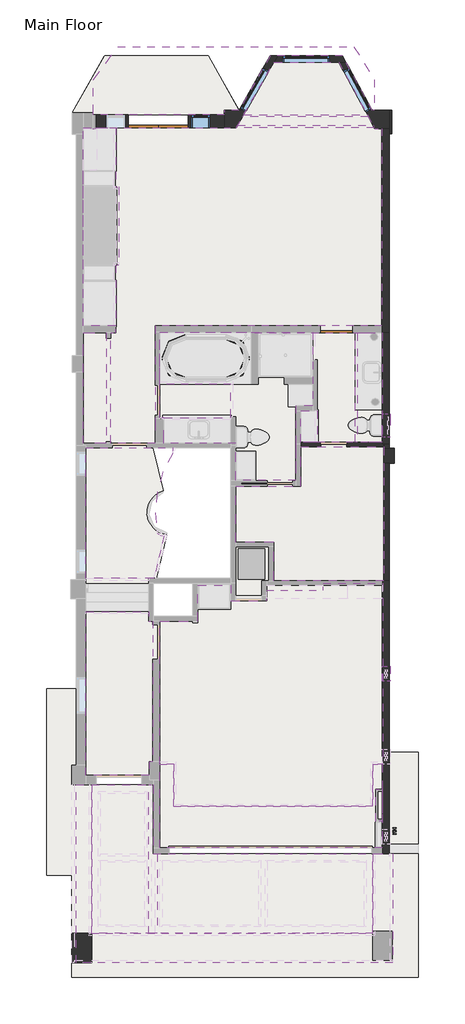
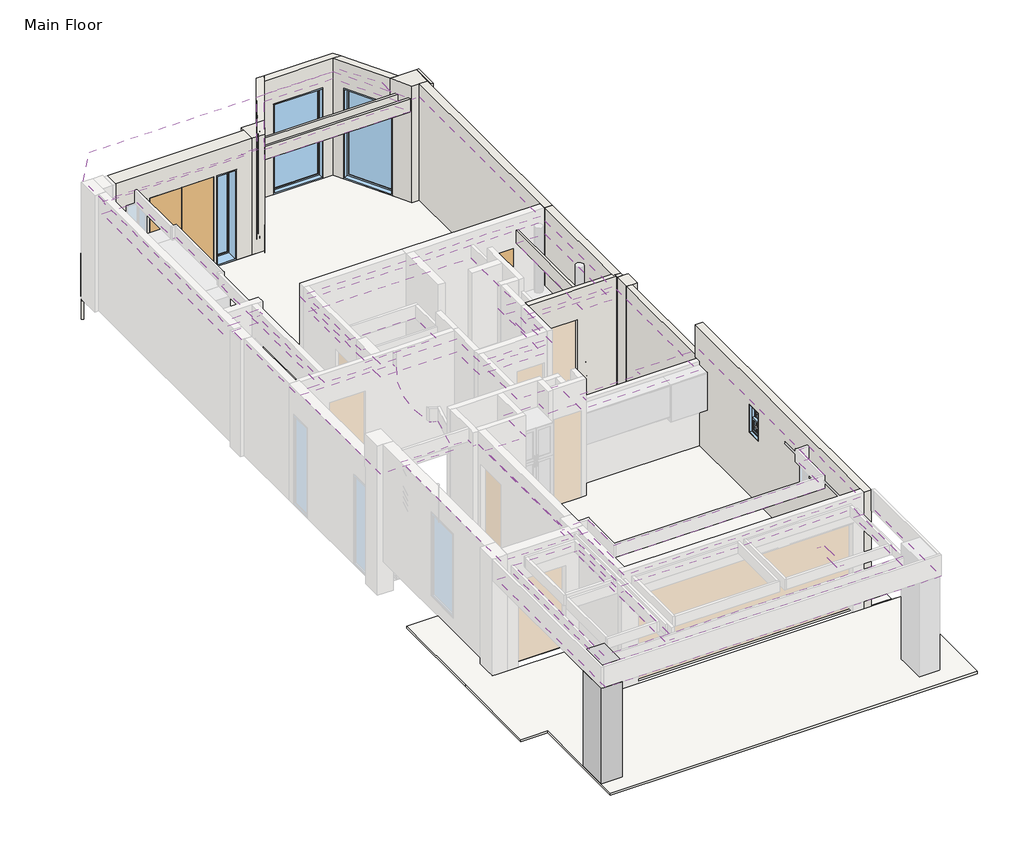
# One storey, part 3 of 4: 20 walls, 18 coverings, 6 windows, 5 slabs, 2 doors, 1 column.
"""IFC4 building model written with IfcOpenShell, lengths in millimetres."""

from ifc_helpers import new_model, si_unit, point, frame, frame_2d, origin, origin_with_axes, place, context, project, spatial, polyline, circle_curve, trimmed, segment, composite_curve, outline, extrude, faceted_brep, transform, mapped, element, save
from components import door_cfc43ca0, door_3fdbb91f, default_1_ecde31a0, default_1_4f75ed1f, default_1_15d17b29, default_1_749996dc

model = new_model("IFC4")

# Units and contexts
model_context = context("Model", 3, world=origin())
ifc_project = project(units=[si_unit("LENGTHUNIT", "METRE", prefix="MILLI")], contexts=[model_context])

# Site, building, storey
site = spatial("IfcSite", under=ifc_project)
building = spatial("IfcBuilding", under=site)
storey = spatial("IfcBuildingStorey", under=building, Name="Main Floor", Elevation=0.0)

# Column
placement = place(None, origin())
element("IfcColumn", 1, ObjectType="Rectangular Column 3D : Default 1", at=placement, inside=storey, context=model_context, shape_type="Brep", body=[
    faceted_brep([(-5752.007422, -4740.4040809, 3492.5), (-6165.85, -4740.4040809, 3492.5), (-6165.85, -5378.45, 3492.5), (-5752.007422, -5378.45, 3492.5), (-5752.007422, -4740.4040809, 762.0), (-5752.007422, -5429.25, 762.0), (-6216.65, -5429.25, 762.0), (-6216.65, -4740.4040809, 762.0), (-6216.65, -4740.4040809, 3009.9), (-6165.85, -4740.4040809, 3009.9), (-5752.007422, -4740.4040809, 3213.1), (-5802.807422, -4740.4040809, 3213.1), (-5802.807422, -4740.4040809, 3009.9), (-5752.007422, -4740.4040809, 3009.9), (-6216.65, -5429.25, 3009.9), (-5752.007422, -5429.25, 3009.9), (-6165.85, -5429.25, 3009.9), (-5752.007422, -4791.2040809, 3009.9), (-5752.007422, -4791.2040809, 3213.1), (-5752.007422, -5378.45, 3009.9), (-5802.807422, -4791.2040809, 3009.9), (-5802.807422, -4791.2040809, 3213.1), (-6165.85, -5378.45, 3009.9)], [[[0, 1, 2, 3]], [[4, 5, 6, 7]], [[4, 7, 8, 9, 1, 0, 10, 11, 12, 13]], [[7, 6, 14, 8]], [[6, 5, 15, 16, 14]], [[5, 4, 13, 17, 18, 10, 0, 3, 19, 15]], [[20, 21, 18, 17]], [[21, 11, 10, 18]], [[12, 20, 17, 13]], [[21, 20, 12, 11]], [[1, 9, 22, 2]], [[9, 8, 14, 16, 22]], [[22, 19, 3, 2]], [[19, 22, 16, 15]]]),
])

# Coverings
element("IfcCovering", 2, ObjectType="1/2\" Ceiling", at=placement, inside=storey, context=model_context, shape_type="SweptSolid", body=[
    extrude(outline(polyline([(952.5, -2096.7007105), (952.5, -1334.7007105), (1104.9, -1334.7007105), (1104.9, -2096.7007105), (952.5, -2096.7007105)])), frame((0.0, 0.0, 1320.8), z_axis=(0.0, 0.0, 1.0), x_axis=(1.0, 0.0, 0.0)), (0.0, 0.0, 1.0), 12.7),
])
element("IfcCovering", 3, ObjectType="1/2\" Ceiling", at=placement, inside=storey, context=model_context, shape_type="SweptSolid", body=[
    extrude(outline(polyline([(882.65, -746.125), (882.65, -1743.6060556), (-3816.35, -1743.6060556), (-3816.35, -746.125), (-4140.2, -746.125), (-4140.2, 2628.9), (-3244.85, 2628.9), (-3244.85, 3467.1), (-2470.15, 3467.1), (-2470.15, 3105.15), (-1619.2553726, 3105.15), (-1619.2553726, 3348.9640828), (-285.75, 3348.9640828), (-285.75, 3517.9), (1117.6, 3517.9), (1117.6, -746.125), (882.65, -746.125)])), frame((0.0, 0.0, 2997.2), z_axis=(0.0, 0.0, 1.0), x_axis=(1.0, 0.0, 0.0)), (0.0, 0.0, 1.0), 12.7),
])
element("IfcCovering", 4, ObjectType="1/2\" Ceiling", at=placement, inside=storey, context=model_context, shape_type="SweptSolid", body=[
    extrude(outline(polyline([(-3816.35, -746.125), (-3816.35, -1743.6060556), (882.65, -1743.6060556), (882.65, -746.125), (1104.9, -746.125), (1104.9, -2724.15), (-4140.2, -2724.15), (-4140.2, -746.125), (-3816.35, -746.125)])), frame((0.0, 0.0, 3302.0), z_axis=(0.0, 0.0, 1.0), x_axis=(1.0, 0.0, 0.0)), (0.0, 0.0, 1.0), 12.7),
])
element("IfcCovering", 5, ObjectType="1/2\" Ceiling", at=placement, inside=storey, context=model_context, shape_type="SweptSolid", body=[
    extrude(outline(polyline([(-5949.95, 14116.05), (-5949.95, 14243.05), (-5727.7, 14243.05), (-5657.85, 14243.05), (-5657.85, 14268.45), (-2616.2, 14268.45), (-2333.8307, 14268.45), (-1449.1487, 15811.5), (76.1949, 15811.5), (931.1539, 14243.05), (1092.2, 14243.05), (1092.2, 9588.5), (-1898.65, 9588.5), (-4254.5, 9588.5), (-4254.5, 7423.15), (-4254.5, 6826.25), (-5295.9, 6826.25), (-5295.9, 9423.4), (-5175.25, 9423.4), (-5175.25, 9588.5), (-5949.95, 9588.5), (-5949.95, 14116.05)])), frame((0.0, 0.0, 2438.4), z_axis=(0.0, 0.0, 1.0), x_axis=(1.0, 0.0, 0.0)), (0.0, 0.0, 1.0), 12.7),
])
element("IfcCovering", 6, ObjectType="1/2\" Ceiling", at=placement, inside=storey, context=model_context, shape_type="SweptSolid", body=[
    extrude(outline(polyline([(-5410.2, 6826.25), (-5949.95, 6826.25), (-5949.95, 8502.65), (-5949.95, 8890.0), (-5949.95, 9423.4), (-5410.2, 9423.4), (-5410.2, 6826.25)])), frame((0.0, 0.0, 2438.4), z_axis=(0.0, 0.0, 1.0), x_axis=(1.0, 0.0, 0.0)), (0.0, 0.0, 1.0), 12.7),
])
element("IfcCovering", 7, ObjectType="1/2\" Ceiling", at=placement, inside=storey, context=model_context, shape_type="SweptSolid", body=[
    extrude(outline(polyline([(-1898.65, 9423.4), (1104.9, 9423.4), (1104.9, 6851.65), (-933.45, 6851.65), (-933.45, 5943.6), (-2355.85, 5943.6), (-2355.85, 6826.25), (-4051.3, 6826.25), (-4051.3, 7423.15), (-4140.2, 7423.15), (-4140.2, 9436.1), (-1898.65, 9436.1), (-1898.65, 9423.4)])), frame((0.0, 0.0, 2438.4), z_axis=(0.0, 0.0, 1.0), x_axis=(1.0, 0.0, 0.0)), (0.0, 0.0, 1.0), 12.7),
])
element("IfcCovering", 8, ObjectType="1/2\" Ceiling", at=placement, inside=storey, context=model_context, shape_type="SweptSolid", body=[
    extrude(outline(polyline([(1143.0, 6350.0), (1143.0, 3581.4), (-1454.15, 3581.4), (-1454.15, 4489.45), (-2355.85, 4489.45), (-2355.85, 5803.9), (-819.15, 5803.9), (-819.15, 6737.35), (1143.0, 6737.35), (1143.0, 6350.0)])), frame((0.0, 0.0, 2438.4), z_axis=(0.0, 0.0, 1.0), x_axis=(1.0, 0.0, 0.0)), (0.0, 0.0, 1.0), 12.7),
])
element("IfcCovering", 9, ObjectType="1/2\" Ceiling", at=placement, inside=storey, context=model_context, shape_type="SweptSolid", body=[
    extrude(outline(polyline([(-5175.25, 14268.45), (-5175.25, 12871.45), (-5105.4, 12871.45), (-5105.4, 11023.6), (-5175.25, 11023.6), (-5175.25, 9588.5), (-5949.95, 9588.5), (-5949.95, 14268.45), (-5175.25, 14268.45)])), frame((0.0, 0.0, 2133.6), z_axis=(0.0, 0.0, 1.0), x_axis=(1.0, 0.0, 0.0)), (0.0, 0.0, 1.0), 12.7),
])
element("IfcCovering", 10, ObjectType="1/2\" Ceiling", at=placement, inside=storey, context=model_context, shape_type="SweptSolid", body=[
    extrude(outline(polyline([(917.2030099, 14268.45), (-2333.8307, 14268.45), (-2159.0787, 14573.25), (751.2694198, 14573.25), (917.2030099, 14268.45)])), frame((0.0, 0.0, 2133.6), z_axis=(0.0, 0.0, 1.0), x_axis=(1.0, 0.0, 0.0)), (0.0, 0.0, 1.0), 12.7),
])
element("IfcCovering", 11, ObjectType="1/2\" Ceiling", at=placement, inside=storey, context=model_context, shape_type="SweptSolid", body=[
    extrude(outline(polyline([(-819.15, 7588.25), (-425.45, 7588.25), (-425.45, 6851.65), (-819.15, 6851.65), (-819.15, 7588.25)])), frame((0.0, 0.0, 2032.0), z_axis=(0.0, 0.0, 1.0), x_axis=(1.0, 0.0, 0.0)), (0.0, 0.0, 1.0), 12.7),
])
element("IfcCovering", 12, ObjectType="1/2\" Ceiling", at=placement, inside=storey, context=model_context, shape_type="SweptSolid", body=[
    extrude(outline(polyline([(463.55, 9423.4), (1104.9, 9423.4), (1104.9, 6851.65), (463.55, 6851.65), (463.55, 9423.4)])), frame((0.0, 0.0, 2133.6), z_axis=(0.0, 0.0, 1.0), x_axis=(1.0, 0.0, 0.0)), (0.0, 0.0, 1.0), 12.7),
])
element("IfcCovering", 13, ObjectType="1/2\" Ceiling", at=placement, inside=storey, context=model_context, shape_type="SweptSolid", body=[
    extrude(outline(polyline([(-4140.2, 9436.1), (-1981.2, 9436.1), (-539.75, 9436.1), (-539.75, 7702.55), (-933.45, 7702.55), (-933.45, 5943.6), (-2355.85, 5943.6), (-2355.85, 6826.25), (-4051.3, 6826.25), (-4051.3, 7423.15), (-2470.15, 7423.15), (-2470.15, 8216.9), (-4140.2, 8216.9), (-4140.2, 9436.1)])), frame((0.0, 0.0, 2133.6), z_axis=(0.0, 0.0, 1.0), x_axis=(1.0, 0.0, 0.0)), (0.0, 0.0, 1.0), 12.7),
])
element("IfcCovering", 14, ObjectType="1/2\" Ceiling", at=placement, inside=storey, context=model_context, shape_type="SweptSolid", body=[
    extrude(outline(composite_curve([segment(polyline([(-5886.45, 3632.2), (-5886.45, 6711.95), (-3841.75, 6711.95), (-3841.75, 6588.6400816)]), True, "CONTINUOUS"), segment(trimmed(circle_curve(frame_2d((-1676.1882666, 5197.2214255)), 2574.0441911), [point((-3841.75, 6588.6400816))], [point((-4201.3157051, 4697.7868282))], True, "CARTESIAN"), True, "CONTINUOUS"), segment(trimmed(circle_curve(frame_2d((-3923.0824091, 5122.5445613)), 507.7724872), [point((-4201.3157051, 4697.7868282))], [point((-4044.8755511, 4629.5949397))], True, "CARTESIAN"), True, "CONTINUOUS"), segment(polyline([(-4044.8755511, 4629.5949397), (-4280.2256147, 3632.2), (-5886.45, 3632.2)]), True, "CONTINUOUS")], self_intersect=False)), frame((0.0, 0.0, 2438.4), z_axis=(0.0, 0.0, 1.0), x_axis=(1.0, 0.0, 0.0)), (0.0, 0.0, 1.0), 12.7),
])
element("IfcCovering", 15, ObjectType="1/2\" Ceiling", at=placement, inside=storey, context=model_context, shape_type="SweptSolid", body=[
    extrude(outline(polyline([(-5886.45, 2851.15), (-4406.9, 2851.15), (-4406.9, 2628.9), (-4305.3, 2628.9), (-4305.3, -692.15), (-4394.2, -692.15), (-4394.2, -1009.65), (-5886.45, -1009.65), (-5886.45, 2851.15)])), frame((0.0, 0.0, 3200.4), z_axis=(0.0, 0.0, 1.0), x_axis=(1.0, 0.0, 0.0)), (0.0, 0.0, 1.0), 12.7),
])
element("IfcCovering", 16, ObjectType="1/2\" Ceiling", at=placement, inside=storey, context=model_context, shape_type="SweptSolid", body=[
    extrude(outline(polyline([(-6115.05, -5429.25), (-6115.05, -1238.25), (-5752.007422, -1238.25), (-5752.007422, -4740.4040809), (882.65, -4740.4040809), (882.65, -2863.85), (1347.292578, -2863.85), (1347.292578, -5429.25), (-6115.05, -5429.25)])), frame((0.0, 0.0, 2997.2), z_axis=(0.0, 0.0, 1.0), x_axis=(1.0, 0.0, 0.0)), (0.0, 0.0, 1.0), 12.7),
])
element("IfcCovering", 17, ObjectType="1/2\" Ceiling", at=placement, inside=storey, context=model_context, shape_type="SweptSolid", body=[
    extrude(outline(polyline([(-5752.007422, -1238.25), (-4292.6, -1238.25), (-4292.6, -2863.85), (882.65, -2863.85), (882.65, -4740.4040809), (-4292.6, -4740.4040809), (-5752.007422, -4740.4040809), (-5752.007422, -1238.25)]), holes=[polyline([(-4495.8, -1441.45), (-5548.807422, -1441.45), (-5548.807422, -2863.85), (-4495.8, -2863.85), (-4495.8, -1441.45)]), polyline([(-5548.807422, -3067.05), (-5548.807422, -4537.2040809), (-4495.8, -4537.2040809), (-4495.8, -3067.05), (-5548.807422, -3067.05)]), polyline([(-1603.375, -4537.2040809), (679.45, -4537.2040809), (679.45, -3067.05), (-1603.375, -3067.05), (-1603.375, -4537.2040809)]), polyline([(-1806.575, -3067.05), (-4089.4, -3067.05), (-4089.4, -4537.2040809), (-1806.575, -4537.2040809), (-1806.575, -3067.05)])]), frame((0.0, 0.0, 3200.4), z_axis=(0.0, 0.0, 1.0), x_axis=(1.0, 0.0, 0.0)), (0.0, 0.0, 1.0), 12.7),
])
element("IfcCovering", 18, ObjectType="1/2\" Ceiling", at=placement, inside=storey, context=model_context, shape_type="SweptSolid", body=[
    extrude(outline(polyline([(-4399.9496784, -1238.25), (-4292.6, -1238.25), (-4292.6, -2863.85), (-4196.7496784, -2863.85), (-4196.7496784, -4740.4040809), (-4399.9496784, -4740.4040809), (-4399.9496784, -1238.25)])), frame((0.0, 0.0, 3048.0), z_axis=(0.0, 0.0, 1.0), x_axis=(1.0, 0.0, 0.0)), (0.0, 0.0, 1.0), 12.7),
])
element("IfcCovering", 19, ObjectType="1/2\" Ceiling", at=placement, inside=storey, context=model_context, shape_type="SweptSolid", body=[
    extrude(outline(polyline([(920.75, 15398.75), (920.75, 14674.85), (869.3515179, 14674.85), (166.6929066, 15963.9), (-1537.4437715, 15963.9), (-2276.4991049, 14674.85), (-2616.2, 14674.85), (-2616.2, 14573.25), (-5708.65, 14573.25), (-5708.65, 14611.35), (-5708.65, 15398.75), (-5130.8, 16179.8), (438.15, 16179.8), (920.75, 15398.75)])), frame((0.0, 0.0, 2133.6), z_axis=(0.0, 0.0, 1.0), x_axis=(1.0, 0.0, 0.0)), (0.0, 0.0, 1.0), 12.7),
])

# Doors
door_shape = door_cfc43ca0(model_context)
element("IfcDoor", 20, ObjectType="Planitar - Single Door_Flush Panel : 2'-6\" x 6'-8\"", at=placement, inside=storey, context=model_context, shape_type="MappedRepresentation", body=[
    mapped(door_shape, transform((26.19375, 9505.95, 0.0), x_axis=(-1.0, 0.0, 0.0), y_axis=(0.0, -1.0, 0.0), z_axis=(0.0, 0.0, 1.0))),
])
door_2_shape = door_3fdbb91f(model_context)
element("IfcDoor", 21, ObjectType="Planitar - Double Door_Flush Panel : 4'-8\" x 6'-8\"", at=placement, inside=storey, context=model_context, shape_type="MappedRepresentation", body=[
    mapped(door_2_shape, transform((-4179.8875, 14420.85, 0.0), x_axis=(-1.0, 0.0, 0.0), y_axis=(0.0, -1.0, 0.0), z_axis=(0.0, 0.0, 1.0))),
])

# Slabs
element("IfcSlab", 22, ObjectType="Ledge - 2\"", at=placement, inside=storey, context=model_context, shape_type="SweptSolid", body=[
    extrude(outline(polyline([(-4406.9, 2851.15), (-4406.9, 2628.9), (-3244.85, 2628.9), (-3244.85, 3517.9), (-2355.85, 3517.9), (-2355.85, 4375.15), (-1568.45, 4375.15), (-1568.45, 3467.1), (1104.9, 3467.1), (1104.9, 2628.9), (1104.9, -2724.15), (-4140.2, -2724.15), (-4140.2, -1009.65), (-5886.45, -1009.65), (-5886.45, 2851.15), (-4406.9, 2851.15)])), frame((0.0, 0.0, 711.2), z_axis=(0.0, 0.0, 1.0), x_axis=(1.0, 0.0, 0.0)), (0.0, 0.0, 1.0), 50.8),
])
element("IfcSlab", 23, ObjectType="Ledge - 2\"", at=placement, inside=storey, context=model_context, shape_type="SweptSolid", body=[
    extrude(outline(composite_curve([segment(polyline([(917.3084101, 14268.45), (1104.9, 14268.45), (1104.9, 6737.35), (1143.0, 6737.35), (1143.0, 3581.4), (-1454.15, 3581.4), (-1454.15, 4489.45), (-2355.85, 4489.45), (-2355.85, 6711.95), (-2470.15, 6711.95), (-4310.0409689, 6711.95), (-4299.8915892, 6671.4824091), (-4056.0661814, 5699.3021264)]), True, "CONTINUOUS"), segment(trimmed(circle_curve(frame_2d((-3930.504706, 5190.9300722)), 523.6485745), [point((-4056.0661814, 5699.3021264))], [point((-3974.6358064, 4669.1444116))], True, "CARTESIAN"), True, "CONTINUOUS"), segment(polyline([(-3974.6358064, 4669.1444116), (-4225.6096026, 3632.2), (-4406.9, 3632.2), (-4406.9, 3486.55), (-5886.45, 3486.55), (-5886.45, 3644.9), (-5886.45, 6826.25), (-5949.95, 6826.25), (-5949.95, 14268.45), (-5886.45, 14268.45), (-2333.8307, 14268.45), (-1449.1487, 15811.5), (76.1949, 15811.5), (917.3084101, 14268.45)]), True, "CONTINUOUS")], self_intersect=False)), frame((0.0, 0.0, -50.8), z_axis=(0.0, 0.0, 1.0), x_axis=(1.0, 0.0, 0.0)), (0.0, 0.0, 1.0), 50.8),
])
element("IfcSlab", 24, ObjectType="Ledge - 2\"", at=placement, inside=storey, context=model_context, shape_type="SweptSolid", body=[
    extrude(outline(polyline([(-5441.95, 15963.9), (-3003.55, 15963.9), (-2276.4991049, 14674.85), (-2616.2, 14674.85), (-2616.2, 14573.25), (-5727.7, 14573.25), (-5727.7, 14624.05), (-6203.95, 14624.05), (-5441.95, 15963.9)])), frame((0.0, 0.0, -50.8), z_axis=(0.0, 0.0, 1.0), x_axis=(1.0, 0.0, 0.0)), (0.0, 0.0, 1.0), 50.8),
])
element("IfcSlab", 25, ObjectType="Ledge - 2\"", at=placement, inside=storey, context=model_context, shape_type="SweptSolid", body=[
    extrude(outline(polyline([(-6115.05, -1238.25), (-4292.6, -1238.25), (-4292.6, -2863.85), (1270.0, -2863.85), (1949.45, -2863.85), (1949.45, -5778.5), (-6216.65, -5778.5), (-6216.65, -3365.5), (-6813.55, -3365.5), (-6813.55, -1238.25), (-6813.55, 1035.05), (-6115.05, 1035.05), (-6115.05, -768.35), (-6115.05, -1238.25)])), frame((0.0, 0.0, 711.2), z_axis=(0.0, 0.0, 1.0), x_axis=(1.0, 0.0, 0.0)), (0.0, 0.0, 1.0), 50.8),
])
element("IfcSlab", 26, ObjectType="Ledge - 2\"", at=placement, inside=storey, context=model_context, shape_type="SweptSolid", body=[
    extrude(outline(polyline([(1270.0, -469.9), (1949.45, -469.9), (1949.45, -2666.6), (1270.0, -2666.6), (1270.0, -469.9)])), frame((0.0, 0.0, 406.4), z_axis=(0.0, 0.0, 1.0), x_axis=(1.0, 0.0, 0.0)), (0.0, 0.0, 1.0), 50.8),
])

# Walls
element("IfcWall", 27, ObjectType="Planitar - Generic 1' - 0\"", at=placement, inside=storey, context=model_context, shape_type="Brep", body=[
    faceted_brep([(-2616.2, 14268.45, 0.0), (-2616.2, 14268.45, 2743.2), (-5657.85, 14268.45, 2743.2), (-5657.85, 14268.45, 0.0), (-5410.2, 14268.45, 0.0), (-5410.2, 14268.45, 2133.6), (-5226.05, 14268.45, 2133.6), (-5175.25, 14268.45, 2133.6), (-4953.0, 14268.45, 2133.6), (-4953.0, 14268.45, 0.0), (-4891.0875, 14268.45, 0.0), (-4891.0875, 14268.45, 2133.6), (-3468.6875, 14268.45, 2133.6), (-3468.6875, 14268.45, 0.0), (-3406.775, 14268.45, 0.0), (-3406.775, 14268.45, 2133.6), (-2949.575, 14268.45, 2133.6), (-2949.575, 14268.45, 0.0), (-2616.2, 14573.25, 2743.2), (-2616.2, 14573.25, 0.0), (-2949.575, 14573.25, 0.0), (-2949.575, 14573.25, 2133.6), (-3406.775, 14573.25, 2133.6), (-3406.775, 14573.25, 0.0), (-3468.6875, 14573.25, 0.0), (-3468.6875, 14573.25, 2133.6), (-4891.0875, 14573.25, 2133.6), (-4891.0875, 14573.25, 0.0), (-4953.0, 14573.25, 0.0), (-4953.0, 14573.25, 2133.6), (-5410.2, 14573.25, 2133.6), (-5410.2, 14573.25, 0.0), (-5657.85, 14573.25, 0.0), (-5657.85, 14573.25, 2743.2)], [[[0, 1, 2, 3, 4, 5, 6, 7, 8, 9, 10, 11, 12, 13, 14, 15, 16, 17]], [[18, 19, 20, 21, 22, 23, 24, 25, 26, 27, 28, 29, 30, 31, 32, 33]], [[3, 32, 31, 4]], [[19, 0, 17, 20]], [[9, 28, 27, 10]], [[23, 14, 13, 24]], [[1, 0, 19, 18]], [[2, 1, 18, 33]], [[3, 2, 33, 32]], [[30, 5, 4, 31]], [[5, 30, 29, 8, 7, 6]], [[8, 29, 28, 9]], [[22, 15, 14, 23]], [[15, 22, 21, 16]], [[16, 21, 20, 17]], [[26, 11, 10, 27]], [[11, 26, 25, 12]], [[12, 25, 24, 13]]]),
])
element("IfcWall", 28, ObjectType="Planitar - Generic 1' - 4\"", at=placement, inside=storey, context=model_context, shape_type="Brep", body=[
    faceted_brep([(-2616.2, 14268.45, 0.0), (-2333.8307, 14268.45, 0.0), (-2333.8307, 14268.45, 2133.6), (-2333.8307, 14268.45, 2438.4), (-2333.8307, 14268.45, 2743.2), (-2616.2, 14268.45, 2743.2), (-2616.2, 14674.85, 2743.2), (-2276.4991049, 14674.85, 2743.2), (-2100.8280333, 14674.85, 2743.2), (-2100.8280333, 14674.85, 2133.6), (-2190.0746893, 14674.85, 2133.6), (-2190.0746893, 14674.85, 0.0), (-2276.4991049, 14674.85, 0.0), (-2616.2, 14674.85, 0.0), (-2616.2, 14573.25, 0.0), (-2122.9068488, 14636.3404381, 0.0), (-2616.2, 14573.25, 2743.2), (-2122.9068488, 14636.3404381, 2133.6)], [[[0, 1, 2, 3, 4, 5]], [[6, 7, 8, 9, 10, 11, 12, 13]], [[1, 0, 14, 13, 12, 11, 15]], [[5, 4, 8, 7, 6, 16]], [[0, 5, 16, 6, 13, 14]], [[10, 17, 15, 11]], [[17, 10, 9]], [[8, 4, 3, 2, 1, 15, 17, 9]]]),
])
element("IfcWall", 29, ObjectType="Planitar - Generic 6\"", at=placement, inside=storey, context=model_context, shape_type="Brep", body=[
    faceted_brep([(-1361.7727, 15963.9, 2743.2), (-1449.1487, 15811.5, 2743.2), (-2100.8280333, 14674.85, 2743.2), (-2100.8280333, 14674.85, 2133.6), (-1567.0303647, 15605.8924452, 2133.6), (-1567.0303647, 15605.8924452, 0.0), (-1449.1487, 15811.5, 0.0), (-1361.7727, 15963.9, 0.0), (-2276.4991049, 14674.85, 2743.2), (-1537.4437715, 15963.9, 2743.2), (-1537.4437715, 15963.9, 0.0), (-1699.2420021, 15681.6937839, 0.0), (-1699.2420021, 15681.6937839, 2133.6), (-2255.1184861, 14712.1417768, 2133.6), (-2255.1184861, 14712.1417768, 0.0), (-2276.4991049, 14674.85, 0.0), (-2190.0746893, 14674.85, 0.0), (-2190.0746893, 14674.85, 2133.6)], [[[0, 1, 2, 3, 4, 5, 6, 7]], [[8, 9, 10, 11, 12, 13, 14, 15]], [[10, 7, 6, 5, 11]], [[15, 14, 16]], [[2, 1, 0, 9, 8]], [[0, 7, 10, 9]], [[13, 17, 16, 14]], [[17, 13, 12, 4, 3]], [[4, 12, 11, 5]], [[2, 8, 15, 16, 17, 3]]]),
])
element("IfcWall", 30, ObjectType="Planitar - Generic 6\"", at=placement, inside=storey, context=model_context, shape_type="Brep", body=[
    faceted_brep([(249.7658458, 15811.5, 2743.2), (76.1949, 15811.5, 2743.2), (-1449.1487, 15811.5, 2743.2), (-1449.1487, 15811.5, 0.0), (-1249.5029337, 15811.5, 0.0), (-1249.5029337, 15811.5, 2133.6), (-131.9029337, 15811.5, 2133.6), (-131.9029337, 15811.5, 0.0), (76.1949, 15811.5, 0.0), (249.7658458, 15811.5, 0.0), (-1361.7727, 15963.9, 2743.2), (166.6929066, 15963.9, 2743.2), (166.6929066, 15963.9, 0.0), (-131.9029337, 15963.9, 0.0), (-131.9029337, 15963.9, 2133.6), (-1249.5029337, 15963.9, 2133.6), (-1249.5029337, 15963.9, 0.0), (-1361.7727, 15963.9, 0.0)], [[[0, 1, 2, 3, 4, 5, 6, 7, 8, 9]], [[10, 11, 12, 13, 14, 15, 16, 17]], [[3, 17, 16, 4]], [[12, 9, 8, 7, 13]], [[2, 1, 0, 11, 10]], [[3, 2, 10, 17]], [[0, 9, 12, 11]], [[15, 5, 4, 16]], [[5, 15, 14, 6]], [[6, 14, 13, 7]]]),
])
element("IfcWall", 31, ObjectType="Planitar - Generic 6\"", at=placement, inside=storey, context=model_context, shape_type="Brep", body=[
    faceted_brep([(695.7805721, 14674.85, 2743.2), (76.1949, 15811.5, 2743.2), (76.1949, 15811.5, 0.0), (188.0236427, 15606.3465465, 0.0), (188.0236427, 15606.3465465, 2133.6), (695.7805721, 14674.85, 2133.6), (249.7658458, 15811.5, 2743.2), (869.3515179, 14674.85, 2743.2), (869.3515179, 14674.85, 0.0), (856.7304724, 14698.0037171, 0.0), (856.7304724, 14698.0037171, 2133.6), (321.8349778, 15679.2868412, 2133.6), (321.8349778, 15679.2868412, 0.0), (249.7658458, 15811.5, 0.0), (814.2542279, 14674.85, 0.0), (814.2542279, 14674.85, 2133.6)], [[[0, 1, 2, 3, 4, 5]], [[6, 7, 8, 9, 10, 11, 12, 13]], [[2, 13, 12, 3]], [[9, 8, 14]], [[1, 0, 7, 6]], [[2, 1, 6, 13]], [[11, 4, 3, 12]], [[4, 11, 10, 15, 5]], [[15, 10, 9, 14]], [[7, 0, 5, 15, 14, 8]]]),
])
element("IfcWall", 32, ObjectType="Planitar - Generic 1' - 5\"", at=placement, inside=storey, context=model_context, shape_type="Brep", body=[
    faceted_brep([(931.1539, 14243.05, 0.0), (1092.2, 14243.05, 0.0), (1270.0, 14243.05, 0.0), (1270.0, 14243.05, 2743.2), (1092.2, 14243.05, 2743.2), (931.1539, 14243.05, 2743.2), (695.7805721, 14674.85, 2743.2), (869.3515179, 14674.85, 2743.2), (1270.0, 14674.85, 2743.2), (1270.0, 14674.85, 0.0), (869.3515179, 14674.85, 0.0), (814.2542279, 14674.85, 0.0), (814.2542279, 14674.85, 2133.6), (695.7805721, 14674.85, 2133.6), (722.9191373, 14625.0634223, 0.0), (722.9191373, 14625.0634223, 2133.6)], [[[0, 1, 2, 3, 4, 5]], [[6, 7, 8, 9, 10, 11, 12, 13]], [[2, 1, 0, 14, 11, 10, 9]], [[5, 4, 3, 8, 7, 6]], [[3, 2, 9, 8]], [[12, 15, 13]], [[15, 12, 11, 14]], [[5, 6, 13, 15, 14, 0]]]),
])
element("IfcWall", 33, ObjectType="Planitar - Generic 7\"", at=placement, inside=storey, context=model_context, shape_type="Brep", body=[
    faceted_brep([(1092.2, 14243.05, 0.0), (1092.2, 9588.5, 0.0), (1092.2, 9423.4, 0.0), (1092.2, 9423.4, 2743.2), (1092.2, 9588.5, 2743.2), (1092.2, 14243.05, 2743.2), (1270.0, 14243.05, 0.0), (1270.0, 14243.05, 2743.2), (1270.0, 9423.4, 2743.2), (1270.0, 9423.4, 0.0), (1104.9, 9423.4, 0.0), (1104.9, 9423.4, 2743.2)], [[[0, 1, 2, 3, 4, 5]], [[6, 7, 8, 9]], [[2, 1, 0, 6, 9, 10]], [[5, 4, 3, 11, 8, 7]], [[0, 5, 7, 6]], [[3, 2, 10, 9, 8, 11]]]),
])
element("IfcWall", 34, ObjectType="Planitar - Generic 6 1/2\"", at=placement, inside=storey, context=model_context, shape_type="Brep", body=[
    faceted_brep([(1104.9, 9423.4, 0.0), (1104.9, 6851.65, 0.0), (1104.9, 6794.5, 0.0), (1104.9, 6794.5, 2743.2), (1104.9, 6851.65, 2743.2), (1104.9, 9423.4, 2743.2), (1104.9, 7523.1625, 2133.6), (1104.9, 6964.3625, 2133.6), (1104.9, 6964.3625, 1371.6), (1104.9, 7523.1625, 1371.6), (1270.0, 9423.4, 0.0), (1270.0, 9423.4, 2743.2), (1270.0, 6794.5, 2743.2), (1270.0, 6794.5, 0.0), (1270.0, 7523.1625, 2133.6), (1270.0, 7523.1625, 1371.6), (1270.0, 6964.3625, 1371.6), (1270.0, 6964.3625, 2133.6), (1143.0, 6794.5, 0.0), (1143.0, 6794.5, 2743.2)], [[[0, 1, 2, 3, 4, 5], [6, 7, 8, 9]], [[10, 11, 12, 13], [14, 15, 16, 17]], [[2, 1, 0, 10, 13, 18]], [[3, 2, 18, 13, 12, 19]], [[5, 4, 3, 19, 12, 11]], [[0, 5, 11, 10]], [[15, 14, 6, 9]], [[16, 15, 9, 8]], [[17, 16, 8, 7]], [[14, 17, 7, 6]]]),
])
element("IfcWall", 35, ObjectType="Planitar - Generic 5\"", at=placement, inside=storey, context=model_context, shape_type="Brep", body=[
    faceted_brep([(1143.0, 6794.5, 0.0), (1143.0, 6737.35, 0.0), (1143.0, 6705.6, 0.0), (1143.0, 6705.6, 2743.2), (1143.0, 6737.35, 2743.2), (1143.0, 6794.5, 2743.2), (1270.0, 6794.5, 0.0), (1270.0, 6794.5, 2743.2), (1270.0, 6705.6, 2743.2), (1270.0, 6705.6, 0.0)], [[[0, 1, 2, 3, 4, 5]], [[6, 7, 8, 9]], [[2, 1, 0, 6, 9]], [[3, 2, 9, 8]], [[5, 4, 3, 8, 7]], [[0, 5, 7, 6]]]),
])
element("IfcWall", 36, ObjectType="Planitar - Generic 5\"", at=placement, inside=storey, context=model_context, shape_type="Brep", body=[
    faceted_brep([(1143.0, 6350.0, 0.0), (1143.0, 3581.4, 0.0), (1143.0, 3581.4, 2743.2), (1143.0, 6350.0, 2743.2), (1270.0, 6350.0, 0.0), (1270.0, 6350.0, 2743.2), (1270.0, 3632.2, 2743.2), (1270.0, 3581.4, 2743.2), (1270.0, 3581.4, 762.0), (1270.0, 3581.4, 0.0)], [[[0, 1, 2, 3]], [[4, 5, 6, 7, 8, 9]], [[1, 0, 4, 9]], [[3, 2, 7, 6, 5]], [[0, 3, 5, 4]], [[2, 1, 9, 8, 7]]]),
])
element("IfcWall", 37, ObjectType="Planitar - Generic 6 1/2\"", at=placement, inside=storey, context=model_context, shape_type="Brep", body=[
    faceted_brep([(1104.9, 3581.4, 762.0), (1104.9, 3467.1, 762.0), (1104.9, -1334.7007105, 762.0), (1104.9, -1385.5007105, 762.0), (1104.9, -2045.9007105, 762.0), (1104.9, -2096.7007105, 762.0), (1104.9, -2724.15, 762.0), (1104.9, -2863.85, 762.0), (1104.9, -2863.85, 3505.2), (1104.9, -2724.15, 3505.2), (1104.9, 3517.9, 3505.2), (1104.9, 3632.2, 3505.2), (1104.9, 3632.2, 2743.2), (1104.9, 3581.4, 2743.2), (1104.9, 1558.925, 2235.2), (1104.9, 1558.925, 2895.6), (1104.9, 1203.325, 2895.6), (1104.9, 1203.325, 2235.2), (1104.9, -2281.2375, 2235.2), (1104.9, -2281.2375, 2895.6), (1104.9, -2636.8375, 2895.6), (1104.9, -2636.8375, 2235.2), (1104.9, -390.525, 2235.2), (1104.9, -390.525, 2895.6), (1104.9, -746.125, 2895.6), (1104.9, -746.125, 2235.2), (1270.0, -2863.85, 762.0), (1270.0, -2660.65, 762.0), (1270.0, 3467.1, 762.0), (1270.0, 3581.4, 762.0), (1270.0, 3581.4, 2743.2), (1270.0, 3632.2, 2743.2), (1270.0, 3632.2, 3505.2), (1270.0, 3517.9, 3505.2), (1270.0, -2863.85, 3505.2), (1270.0, 1558.925, 2895.6), (1270.0, 1558.925, 2235.2), (1270.0, 1203.325, 2235.2), (1270.0, 1203.325, 2895.6), (1270.0, -2281.2375, 2895.6), (1270.0, -2281.2375, 2235.2), (1270.0, -2636.8375, 2235.2), (1270.0, -2636.8375, 2895.6), (1270.0, -390.525, 2895.6), (1270.0, -390.525, 2235.2), (1270.0, -746.125, 2235.2), (1270.0, -746.125, 2895.6), (1143.0, 3581.4, 2743.2), (1117.6, 3632.2, 2743.2)], [[[0, 1, 2, 3, 4, 5, 6, 7, 8, 9, 10, 11, 12, 13], [14, 15, 16, 17], [18, 19, 20, 21], [22, 23, 24, 25]], [[26, 27, 28, 29, 30, 31, 32, 33, 34], [35, 36, 37, 38], [39, 40, 41, 42], [43, 44, 45, 46]], [[7, 6, 5, 4, 3, 2, 1, 0, 29, 28, 27, 26]], [[11, 10, 9, 8, 34, 33, 32]], [[8, 7, 26, 34]], [[35, 15, 14, 36]], [[36, 14, 17, 37]], [[37, 17, 16, 38]], [[18, 40, 39, 19]], [[40, 18, 21, 41]], [[41, 21, 20, 42]], [[22, 44, 43, 23]], [[44, 22, 25, 45]], [[45, 25, 24, 46]], [[15, 35, 38, 16]], [[19, 39, 42, 20]], [[23, 43, 46, 24]], [[31, 30, 47, 13, 12, 48]], [[0, 13, 47, 30, 29]], [[12, 11, 32, 31, 48]]]),
])
element("IfcWall", 38, ObjectType="Planitar - Generic 4 1/2\"", at=placement, inside=storey, context=model_context, shape_type="Brep", body=[
    faceted_brep([(1143.0, 6737.35, 2743.2), (-819.15, 6737.35, 2743.2), (-819.15, 6737.35, 0.0), (-339.725, 6737.35, 0.0), (-339.725, 6737.35, 2032.0), (269.875, 6737.35, 2032.0), (269.875, 6737.35, 0.0), (1143.0, 6737.35, 0.0), (1104.9, 6851.65, 2743.2), (1104.9, 6851.65, 0.0), (269.875, 6851.65, 0.0), (269.875, 6851.65, 2032.0), (-339.725, 6851.65, 2032.0), (-339.725, 6851.65, 0.0), (-819.15, 6851.65, 0.0), (-819.15, 6851.65, 2743.2), (-819.15, 6794.5, 0.0), (1104.9, 6794.5, 0.0), (1143.0, 6794.5, 0.0), (1143.0, 6794.5, 2743.2), (1104.9, 6794.5, 2743.2), (-819.15, 6794.5, 2743.2)], [[[0, 1, 2, 3, 4, 5, 6, 7]], [[8, 9, 10, 11, 12, 13, 14, 15]], [[2, 16, 14, 13, 3]], [[9, 17, 18, 7, 6, 10]], [[1, 0, 19, 20, 8, 15, 21]], [[2, 1, 21, 15, 14, 16]], [[0, 7, 18, 19]], [[18, 17, 20, 19]], [[9, 8, 20, 17]], [[12, 4, 3, 13]], [[4, 12, 11, 5]], [[5, 11, 10, 6]]]),
])
element("IfcWall", 39, ObjectType="Planitar - Generic 9 1/2\"", at=placement, inside=storey, context=model_context, shape_type="Brep", body=[
    faceted_brep([(1143.0, 6705.6, 0.0), (1143.0, 6350.0, 0.0), (1143.0, 6350.0, 2743.2), (1143.0, 6705.6, 2743.2), (1384.3, 6705.6, 0.0), (1384.3, 6705.6, 2743.2), (1384.3, 6350.0, 2743.2), (1384.3, 6350.0, 0.0), (1270.0, 6705.6, 0.0), (1270.0, 6350.0, 0.0), (1270.0, 6350.0, 2743.2), (1270.0, 6705.6, 2743.2)], [[[0, 1, 2, 3]], [[4, 5, 6, 7]], [[1, 0, 8, 4, 7, 9]], [[2, 1, 9, 7, 6, 10]], [[3, 2, 10, 6, 5, 11]], [[0, 3, 11, 5, 4, 8]]]),
])
element("IfcWall", 40, ObjectType="Planitar - Generic 2\"", at=placement, inside=storey, context=model_context, shape_type="SweptSolid", body=[
    extrude(outline(polyline([(917.3084101, 14268.45), (-2333.8307, 14268.45), (-2304.7053667, 14319.25), (889.6174304, 14319.25), (917.3084101, 14268.45)])), frame((0.0, 0.0, 2133.6), z_axis=(0.0, 0.0, 1.0), x_axis=(1.0, 0.0, 0.0)), (0.0, 0.0, 1.0), 304.8),
])
element("IfcWall", 41, ObjectType="Planitar - Generic 2\"", at=placement, inside=storey, context=model_context, shape_type="SweptSolid", body=[
    extrude(outline(polyline([(-2159.0787, 14573.25), (751.1625316, 14573.25), (778.8535113, 14522.45), (-2188.2040333, 14522.45), (-2159.0787, 14573.25)])), frame((0.0, 0.0, 2133.6), z_axis=(0.0, 0.0, 1.0), x_axis=(1.0, 0.0, 0.0)), (0.0, 0.0, 1.0), 304.8),
])
element("IfcWall", 42, ObjectType="Planitar - Generic 2\"", at=placement, inside=storey, context=model_context, shape_type="SweptSolid", body=[
    extrude(outline(polyline([(463.55, 6851.65), (463.55, 9423.4), (514.35, 9423.4), (514.35, 6851.65), (463.55, 6851.65)])), frame((0.0, 0.0, 2133.6), z_axis=(0.0, 0.0, 1.0), x_axis=(1.0, 0.0, 0.0)), (0.0, 0.0, 1.0), 304.8),
])
element("IfcWall", 43, ObjectType="Planitar - Generic 2\"", at=placement, inside=storey, context=model_context, shape_type="SweptSolid", body=[
    extrude(outline(polyline([(-5405.0959996, 15925.9431731), (-6159.7918253, 14598.9363462), (-6203.95, 14624.05), (-5449.2541743, 15951.0568269), (-5405.0959996, 15925.9431731)])), frame((0.0, 0.0, -469.9), z_axis=(0.0, 0.0, 1.0), x_axis=(1.0, 0.0, 0.0)), (0.0, 0.0, 1.0), 419.1),
])
element("IfcWall", 44, ObjectType="Planitar - Generic 2\"", at=placement, inside=storey, context=model_context, shape_type="Brep", body=[
    faceted_brep([(-5427.1750869, 15913.1, -469.9), (-3033.2209127, 15913.1, -469.9), (-2974.897748, 15913.1, -469.9), (-2974.897748, 15913.1, -50.8), (-3033.2209127, 15913.1, -50.8), (-5427.1750869, 15913.1, -50.8), (-5427.1750869, 15963.9, -469.9), (-5427.1750869, 15963.9, -50.8), (-3003.55, 15963.9, -50.8), (-3003.55, 15963.9, -469.9)], [[[0, 1, 2, 3, 4, 5]], [[6, 7, 8, 9]], [[2, 1, 0, 6, 9]], [[5, 4, 3, 8, 7]], [[0, 5, 7, 6]], [[3, 2, 9, 8]]]),
])
element("IfcWall", 45, ObjectType="Planitar - Generic 2\"", at=placement, inside=storey, context=model_context, shape_type="SweptSolid", body=[
    extrude(outline(polyline([(-2269.7647408, 14559.5040069), (-3033.2209127, 15913.1), (-2974.897748, 15913.1), (-2225.5174848, 14584.4603756), (-2269.7647408, 14559.5040069)])), frame((0.0, 0.0, -469.9), z_axis=(0.0, 0.0, 1.0), x_axis=(1.0, 0.0, 0.0)), (0.0, 0.0, 1.0), 419.1),
])
element("IfcWall", 46, ObjectType="Planitar - Generic 2\"", at=placement, inside=storey, context=model_context, shape_type="SweptSolid", body=[
    extrude(outline(polyline([(1333.5, 14674.85), (1333.5, 14128.75), (1282.7, 14128.75), (1282.7, 14674.85), (1333.5, 14674.85)])), origin_with_axes(), (0.0, 0.0, 1.0), 2743.2),
])

# Windows
default_1_shape = default_1_ecde31a0(model_context)
element("IfcWindow", 47, ObjectType="Planitar-Fixed : Default 1", at=placement, inside=storey, context=model_context, shape_type="MappedRepresentation", body=[
    mapped(default_1_shape, transform((-3178.175, 14407.85, -914.4), x_axis=(1.0, 0.0, 0.0), y_axis=(0.0, 1.0, 0.0), z_axis=(0.0, 0.0, 1.0))),
])
default_1_2_shape = default_1_4f75ed1f(model_context)
element("IfcWindow", 48, ObjectType="Planitar-Fixed : Default 1", at=placement, inside=storey, context=model_context, shape_type="MappedRepresentation", body=[
    mapped(default_1_2_shape, transform((-1899.7965299, 15152.5511176, -914.4), x_axis=(0.4973841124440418, 0.8675304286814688, 0.0), y_axis=(-0.8675304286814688, 0.4973841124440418, 0.0), z_axis=(0.0, 0.0, 1.0))),
])
element("IfcWindow", 49, ObjectType="Planitar-Fixed : Default 1", at=placement, inside=storey, context=model_context, shape_type="MappedRepresentation", body=[
    mapped(default_1_2_shape, transform((-690.7029337, 15874.7, -914.4), x_axis=(1.0, 0.0, 0.0), y_axis=(0.0, 1.0, 0.0), z_axis=(0.0, 0.0, 1.0))),
])
element("IfcWindow", 50, ObjectType="Planitar-Fixed : Default 1", at=placement, inside=storey, context=model_context, shape_type="MappedRepresentation", body=[
    mapped(default_1_2_shape, transform((510.9627048, 15145.9531906, -914.4), x_axis=(0.4786108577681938, -0.8780271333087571, 0.0), y_axis=(0.8780271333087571, 0.4786108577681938, 0.0), z_axis=(0.0, 0.0, 1.0))),
])
default_1_3_shape = default_1_15d17b29(model_context)
element("IfcWindow", 51, ObjectType="Planitar-Double-Hung-Single : Default 1", at=placement, inside=storey, context=model_context, shape_type="MappedRepresentation", body=[
    mapped(default_1_3_shape, transform((1187.45, 1381.125, 1320.8), x_axis=(0.0, -1.0, 0.0), y_axis=(1.0, 0.0, 0.0), z_axis=(0.0, 0.0, 1.0))),
])
default_1_4_shape = default_1_749996dc(model_context)
element("IfcWindow", 52, ObjectType="Planitar-Casement-Single_Left : Default 1", at=placement, inside=storey, context=model_context, shape_type="MappedRepresentation", body=[
    mapped(default_1_4_shape, transform((1187.45, 7243.7625, 457.2), x_axis=(0.0, 1.0, 0.0), y_axis=(-1.0, 0.0, 0.0), z_axis=(0.0, 0.0, 1.0))),
])

save(model, "model.ifc")
